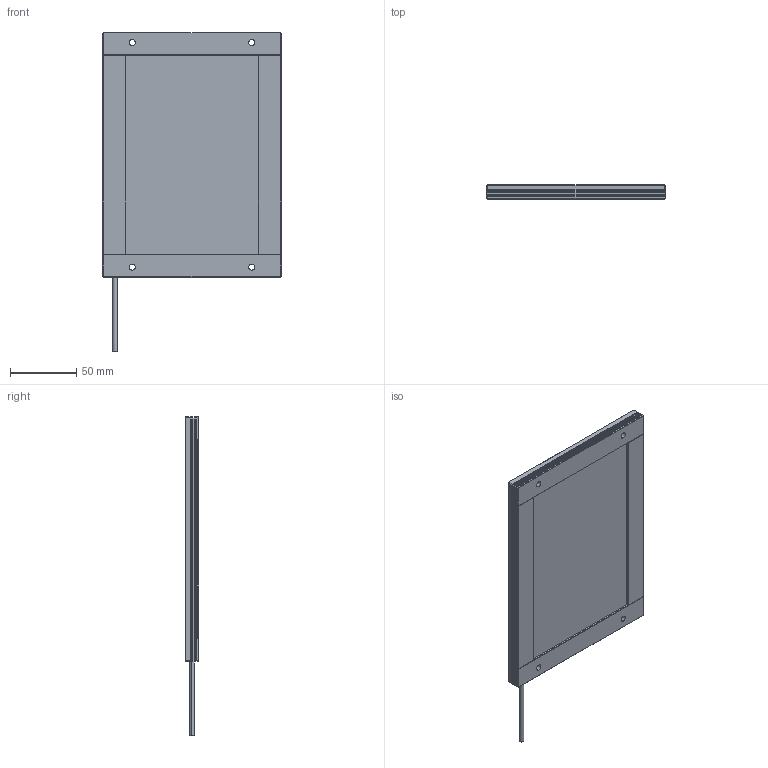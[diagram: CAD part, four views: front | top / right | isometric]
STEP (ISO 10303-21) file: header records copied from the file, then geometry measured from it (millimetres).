
FILE_DESCRIPTION((''),'2;1');
FILE_NAME('LS-LBFS-150-100','2021-07-15T',('LumaSpec Vision'),('LumaSpec Vision'),'PRO/ENGINEER BY PARAMETRIC TECHNOLOGY CORPORATION, 2010100','PRO/ENGINEER BY PARAMETRIC TECHNOLOGY CORPORATION, 2010100','');
FILE_SCHEMA(('CONFIG_CONTROL_DESIGN'));
Length unit declared in the file: millimetre
Products named in the file (1): P-FL2-150-100-ZT-DIBAN
Bounding box: 134 x 10.5 x 239.97 mm (x, y, z)
Volume: 223669.9 mm3; surface area: 73306 mm2
Topology: 1 solids, 2 shells, 227 faces, 616 edges, 402 vertices
Faces by surface type: plane 202, cylinder 25
Entity records: 7078 total; most frequent: CARTESIAN_POINT 1262, ORIENTED_EDGE 1232, DIRECTION 1120, EDGE_CURVE 616, VECTOR 552, LINE 552, VERTEX_POINT 402, AXIS2_PLACEMENT_3D 284
